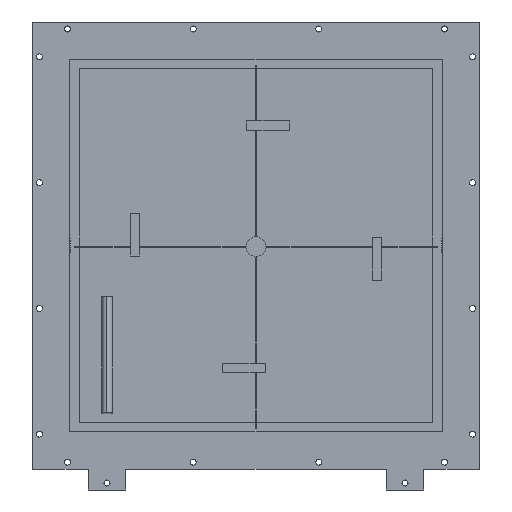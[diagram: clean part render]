
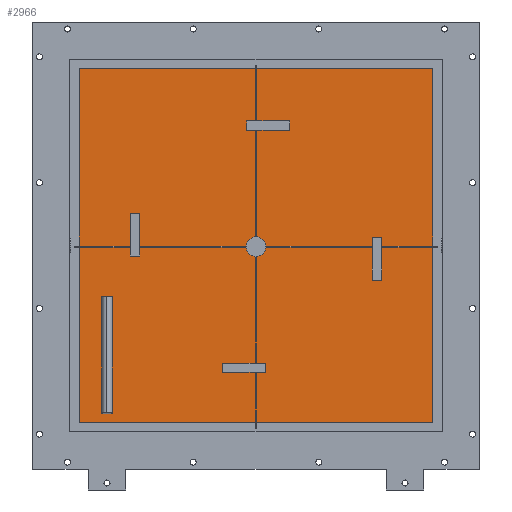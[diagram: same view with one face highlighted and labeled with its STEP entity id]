
A CAD part, front view. The second image highlights one B-rep face of the part: STEP entity #2966.
In plain terms, the highlighted planar face has unit normal (0, -1, 0).
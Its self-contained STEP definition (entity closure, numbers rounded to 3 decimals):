
#234=DIRECTION('',(0.,0.,1.));
#235=VECTOR('',#234,836.);
#236=CARTESIAN_POINT('',(418.,74.75,-420.5));
#237=LINE('',#236,#235);
#242=CARTESIAN_POINT('',(0.,74.75,-2.5));
#243=DIRECTION('',(0.,1.,0.));
#244=DIRECTION('',(0.,0.,1.));
#245=AXIS2_PLACEMENT_3D('',#242,#243,#244);
#247=CARTESIAN_POINT('',(0.,74.75,-2.5));
#248=DIRECTION('',(0.,1.,0.));
#249=DIRECTION('',(0.,0.,-1.));
#250=AXIS2_PLACEMENT_3D('',#247,#248,#249);
#252=DIRECTION('',(1.,0.,0.));
#253=VECTOR('',#252,20.);
#254=CARTESIAN_POINT('',(-270.,74.75,-22.5));
#255=LINE('',#254,#253);
#256=DIRECTION('',(0.,0.,1.));
#257=VECTOR('',#256,92.);
#258=CARTESIAN_POINT('',(-250.,74.75,-22.5));
#259=LINE('',#258,#257);
#260=DIRECTION('',(-1.,0.,0.));
#261=VECTOR('',#260,20.);
#262=CARTESIAN_POINT('',(-250.,74.75,69.5));
#263=LINE('',#262,#261);
#264=DIRECTION('',(0.,0.,-1.));
#265=VECTOR('',#264,92.);
#266=CARTESIAN_POINT('',(-270.,74.75,69.5));
#267=LINE('',#266,#265);
#268=DIRECTION('',(0.,0.,-1.));
#269=VECTOR('',#268,20.);
#270=CARTESIAN_POINT('',(-20.,74.75,267.5));
#271=LINE('',#270,#269);
#272=DIRECTION('',(1.,0.,0.));
#273=VECTOR('',#272,92.);
#274=CARTESIAN_POINT('',(-20.,74.75,247.5));
#275=LINE('',#274,#273);
#276=DIRECTION('',(0.,0.,1.));
#277=VECTOR('',#276,20.);
#278=CARTESIAN_POINT('',(72.,74.75,247.5));
#279=LINE('',#278,#277);
#280=DIRECTION('',(-1.,0.,0.));
#281=VECTOR('',#280,92.);
#282=CARTESIAN_POINT('',(72.,74.75,267.5));
#283=LINE('',#282,#281);
#284=DIRECTION('',(0.,0.,-1.));
#285=VECTOR('',#284,92.);
#286=CARTESIAN_POINT('',(250.,74.75,17.5));
#287=LINE('',#286,#285);
#288=DIRECTION('',(1.,0.,0.));
#289=VECTOR('',#288,20.);
#290=CARTESIAN_POINT('',(250.,74.75,-74.5));
#291=LINE('',#290,#289);
#292=DIRECTION('',(0.,0.,1.));
#293=VECTOR('',#292,92.);
#294=CARTESIAN_POINT('',(270.,74.75,-74.5));
#295=LINE('',#294,#293);
#296=DIRECTION('',(-1.,0.,0.));
#297=VECTOR('',#296,20.);
#298=CARTESIAN_POINT('',(270.,74.75,17.5));
#299=LINE('',#298,#297);
#300=DIRECTION('',(-1.,0.,0.));
#301=VECTOR('',#300,92.);
#302=CARTESIAN_POINT('',(20.,74.75,-252.5));
#303=LINE('',#302,#301);
#304=DIRECTION('',(0.,0.,-1.));
#305=VECTOR('',#304,20.);
#306=CARTESIAN_POINT('',(-72.,74.75,-252.5));
#307=LINE('',#306,#305);
#308=DIRECTION('',(1.,0.,0.));
#309=VECTOR('',#308,92.);
#310=CARTESIAN_POINT('',(-72.,74.75,-272.5));
#311=LINE('',#310,#309);
#312=DIRECTION('',(0.,0.,1.));
#313=VECTOR('',#312,20.);
#314=CARTESIAN_POINT('',(20.,74.75,-272.5));
#315=LINE('',#314,#313);
#316=DIRECTION('',(1.,0.,0.));
#317=VECTOR('',#316,836.);
#318=CARTESIAN_POINT('',(-418.,74.75,-420.5));
#319=LINE('',#318,#317);
#324=DIRECTION('',(0.,0.,-1.));
#325=VECTOR('',#324,836.);
#326=CARTESIAN_POINT('',(-418.,74.75,415.5));
#327=LINE('',#326,#325);
#332=DIRECTION('',(-1.,0.,0.));
#333=VECTOR('',#332,836.);
#334=CARTESIAN_POINT('',(418.,74.75,415.5));
#335=LINE('',#334,#333);
#2255=CARTESIAN_POINT('',(418.,74.75,-420.5));
#2256=CARTESIAN_POINT('',(418.,74.75,415.5));
#2257=VERTEX_POINT('',#2255);
#2258=VERTEX_POINT('',#2256);
#2259=CARTESIAN_POINT('',(-418.,74.75,-420.5));
#2260=VERTEX_POINT('',#2259);
#2261=CARTESIAN_POINT('',(-418.,74.75,415.5));
#2262=VERTEX_POINT('',#2261);
#2459=CARTESIAN_POINT('',(0.,74.75,18.7));
#2460=CARTESIAN_POINT('',(0.,74.75,-23.7));
#2461=VERTEX_POINT('',#2459);
#2462=VERTEX_POINT('',#2460);
#2497=CARTESIAN_POINT('',(-270.,74.75,-22.5));
#2498=CARTESIAN_POINT('',(-250.,74.75,-22.5));
#2499=VERTEX_POINT('',#2497);
#2500=VERTEX_POINT('',#2498);
#2501=CARTESIAN_POINT('',(-250.,74.75,69.5));
#2502=VERTEX_POINT('',#2501);
#2503=CARTESIAN_POINT('',(-270.,74.75,69.5));
#2504=VERTEX_POINT('',#2503);
#2505=CARTESIAN_POINT('',(-20.,74.75,267.5));
#2506=CARTESIAN_POINT('',(-20.,74.75,247.5));
#2507=VERTEX_POINT('',#2505);
#2508=VERTEX_POINT('',#2506);
#2509=CARTESIAN_POINT('',(72.,74.75,247.5));
#2510=VERTEX_POINT('',#2509);
#2511=CARTESIAN_POINT('',(72.,74.75,267.5));
#2512=VERTEX_POINT('',#2511);
#2513=CARTESIAN_POINT('',(250.,74.75,17.5));
#2514=CARTESIAN_POINT('',(250.,74.75,-74.5));
#2515=VERTEX_POINT('',#2513);
#2516=VERTEX_POINT('',#2514);
#2517=CARTESIAN_POINT('',(270.,74.75,-74.5));
#2518=VERTEX_POINT('',#2517);
#2519=CARTESIAN_POINT('',(270.,74.75,17.5));
#2520=VERTEX_POINT('',#2519);
#2521=CARTESIAN_POINT('',(20.,74.75,-252.5));
#2522=CARTESIAN_POINT('',(-72.,74.75,-252.5));
#2523=VERTEX_POINT('',#2521);
#2524=VERTEX_POINT('',#2522);
#2525=CARTESIAN_POINT('',(-72.,74.75,-272.5));
#2526=VERTEX_POINT('',#2525);
#2527=CARTESIAN_POINT('',(20.,74.75,-272.5));
#2528=VERTEX_POINT('',#2527);
#2906=CARTESIAN_POINT('',(0.,74.75,0.));
#2907=DIRECTION('',(0.,1.,0.));
#2908=DIRECTION('',(1.,0.,0.));
#2909=AXIS2_PLACEMENT_3D('',#2906,#2907,#2908);
#2910=PLANE('',#2909);
#2911=ORIENTED_EDGE('',*,*,#2896,.F.);
#2913=ORIENTED_EDGE('',*,*,#2912,.F.);
#2915=ORIENTED_EDGE('',*,*,#2914,.F.);
#2917=ORIENTED_EDGE('',*,*,#2916,.F.);
#2918=EDGE_LOOP('',(#2911,#2913,#2915,#2917));
#2919=FACE_OUTER_BOUND('',#2918,.F.);
#2921=ORIENTED_EDGE('',*,*,#2920,.F.);
#2923=ORIENTED_EDGE('',*,*,#2922,.F.);
#2924=EDGE_LOOP('',(#2921,#2923));
#2925=FACE_BOUND('',#2924,.F.);
#2927=ORIENTED_EDGE('',*,*,#2926,.T.);
#2929=ORIENTED_EDGE('',*,*,#2928,.T.);
#2931=ORIENTED_EDGE('',*,*,#2930,.T.);
#2933=ORIENTED_EDGE('',*,*,#2932,.T.);
#2934=EDGE_LOOP('',(#2927,#2929,#2931,#2933));
#2935=FACE_BOUND('',#2934,.F.);
#2937=ORIENTED_EDGE('',*,*,#2936,.T.);
#2939=ORIENTED_EDGE('',*,*,#2938,.T.);
#2941=ORIENTED_EDGE('',*,*,#2940,.T.);
#2943=ORIENTED_EDGE('',*,*,#2942,.T.);
#2944=EDGE_LOOP('',(#2937,#2939,#2941,#2943));
#2945=FACE_BOUND('',#2944,.F.);
#2947=ORIENTED_EDGE('',*,*,#2946,.T.);
#2949=ORIENTED_EDGE('',*,*,#2948,.T.);
#2951=ORIENTED_EDGE('',*,*,#2950,.T.);
#2953=ORIENTED_EDGE('',*,*,#2952,.T.);
#2954=EDGE_LOOP('',(#2947,#2949,#2951,#2953));
#2955=FACE_BOUND('',#2954,.F.);
#2957=ORIENTED_EDGE('',*,*,#2956,.T.);
#2959=ORIENTED_EDGE('',*,*,#2958,.T.);
#2961=ORIENTED_EDGE('',*,*,#2960,.T.);
#2963=ORIENTED_EDGE('',*,*,#2962,.T.);
#2964=EDGE_LOOP('',(#2957,#2959,#2961,#2963));
#2965=FACE_BOUND('',#2964,.F.);
#246=CIRCLE('',#245,21.2);
#251=CIRCLE('',#250,21.2);
#2896=EDGE_CURVE('',#2257,#2258,#237,.T.);
#2912=EDGE_CURVE('',#2260,#2257,#319,.T.);
#2914=EDGE_CURVE('',#2262,#2260,#327,.T.);
#2916=EDGE_CURVE('',#2258,#2262,#335,.T.);
#2920=EDGE_CURVE('',#2461,#2462,#246,.T.);
#2922=EDGE_CURVE('',#2462,#2461,#251,.T.);
#2926=EDGE_CURVE('',#2499,#2500,#255,.T.);
#2928=EDGE_CURVE('',#2500,#2502,#259,.T.);
#2930=EDGE_CURVE('',#2502,#2504,#263,.T.);
#2932=EDGE_CURVE('',#2504,#2499,#267,.T.);
#2936=EDGE_CURVE('',#2507,#2508,#271,.T.);
#2938=EDGE_CURVE('',#2508,#2510,#275,.T.);
#2940=EDGE_CURVE('',#2510,#2512,#279,.T.);
#2942=EDGE_CURVE('',#2512,#2507,#283,.T.);
#2946=EDGE_CURVE('',#2515,#2516,#287,.T.);
#2948=EDGE_CURVE('',#2516,#2518,#291,.T.);
#2950=EDGE_CURVE('',#2518,#2520,#295,.T.);
#2952=EDGE_CURVE('',#2520,#2515,#299,.T.);
#2956=EDGE_CURVE('',#2523,#2524,#303,.T.);
#2958=EDGE_CURVE('',#2524,#2526,#307,.T.);
#2960=EDGE_CURVE('',#2526,#2528,#311,.T.);
#2962=EDGE_CURVE('',#2528,#2523,#315,.T.);
#2966=ADVANCED_FACE('',(#2919,#2925,#2935,#2945,#2955,#2965),#2910,.F.);
